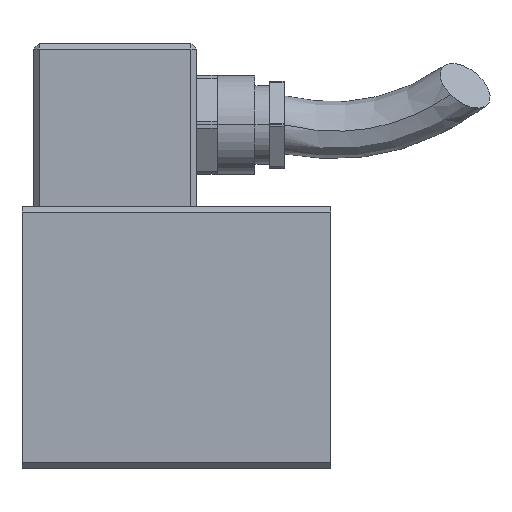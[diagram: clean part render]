
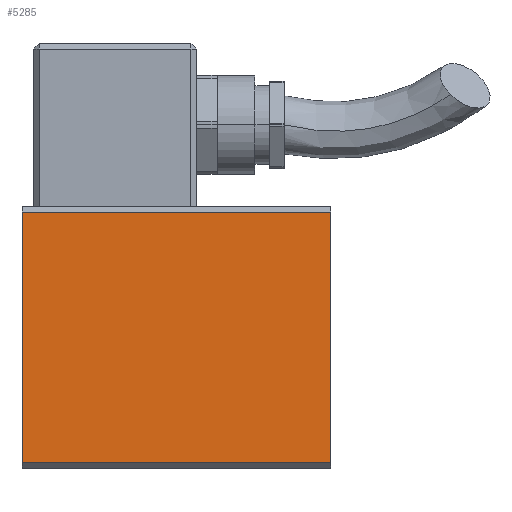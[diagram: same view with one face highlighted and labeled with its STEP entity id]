
A CAD part, top view. The second image highlights one B-rep face of the part: STEP entity #5285.
In plain terms, the highlighted planar face has unit normal (0, 0, 1).
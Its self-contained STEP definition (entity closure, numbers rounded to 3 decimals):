
#117 = CARTESIAN_POINT ( 'NONE',  ( 0., -21.5, 22.5 ) ) ;
#628 = DIRECTION ( 'NONE',  ( 0., -1., 0. ) ) ;
#900 = CARTESIAN_POINT ( 'NONE',  ( 0., 21.5, 22.5 ) ) ;
#935 = VECTOR ( 'NONE', #628, 1000. ) ;
#1384 = CARTESIAN_POINT ( 'NONE',  ( 53., 21.5, 22.5 ) ) ;
#1585 = VERTEX_POINT ( 'NONE', #7033 ) ;
#1637 = VECTOR ( 'NONE', #2660, 1000. ) ;
#2024 = EDGE_CURVE ( 'NONE', #6899, #3266, #6689, .T. ) ;
#2616 = CARTESIAN_POINT ( 'NONE',  ( 53., -22.5, 22.5 ) ) ;
#2660 = DIRECTION ( 'NONE',  ( 1., 0., 0. ) ) ;
#3266 = VERTEX_POINT ( 'NONE', #5154 ) ;
#3268 = DIRECTION ( 'NONE',  ( 0., -1., 0. ) ) ;
#3282 = CARTESIAN_POINT ( 'NONE',  ( 53., -21.5, 22.5 ) ) ;
#3357 = LINE ( 'NONE', #1384, #6505 ) ;
#3379 = LINE ( 'NONE', #2616, #6529 ) ;
#3387 = AXIS2_PLACEMENT_3D ( 'NONE', #7295, #3530, #7934 ) ;
#3530 = DIRECTION ( 'NONE',  ( 0., 0., -1. ) ) ;
#3938 = EDGE_CURVE ( 'NONE', #7061, #6899, #4317, .T. ) ;
#4312 = ORIENTED_EDGE ( 'NONE', *, *, #3938, .T. ) ;
#4317 = LINE ( 'NONE', #4436, #935 ) ;
#4436 = CARTESIAN_POINT ( 'NONE',  ( 0., -22.5, 22.5 ) ) ;
#4591 = ORIENTED_EDGE ( 'NONE', *, *, #2024, .T. ) ;
#4763 = PLANE ( 'NONE',  #3387 ) ;
#4924 = ORIENTED_EDGE ( 'NONE', *, *, #6582, .T. ) ;
#5059 = EDGE_CURVE ( 'NONE', #1585, #3266, #3379, .T. ) ;
#5154 = CARTESIAN_POINT ( 'NONE',  ( 53., -21.5, 22.5 ) ) ;
#5285 = ADVANCED_FACE ( 'NONE', ( #6519 ), #4763, .F. ) ;
#5829 = DIRECTION ( 'NONE',  ( -1., 0., 0. ) ) ;
#5962 = ORIENTED_EDGE ( 'NONE', *, *, #5059, .F. ) ;
#6505 = VECTOR ( 'NONE', #5829, 1000. ) ;
#6519 = FACE_OUTER_BOUND ( 'NONE', #6825, .T. ) ;
#6529 = VECTOR ( 'NONE', #3268, 1000. ) ;
#6582 = EDGE_CURVE ( 'NONE', #1585, #7061, #3357, .T. ) ;
#6689 = LINE ( 'NONE', #3282, #1637 ) ;
#6825 = EDGE_LOOP ( 'NONE', ( #4312, #4591, #5962, #4924 ) ) ;
#6899 = VERTEX_POINT ( 'NONE', #117 ) ;
#7033 = CARTESIAN_POINT ( 'NONE',  ( 53., 21.5, 22.5 ) ) ;
#7061 = VERTEX_POINT ( 'NONE', #900 ) ;
#7295 = CARTESIAN_POINT ( 'NONE',  ( 53., -22.5, 22.5 ) ) ;
#7934 = DIRECTION ( 'NONE',  ( -1., 0., 0. ) ) ;
